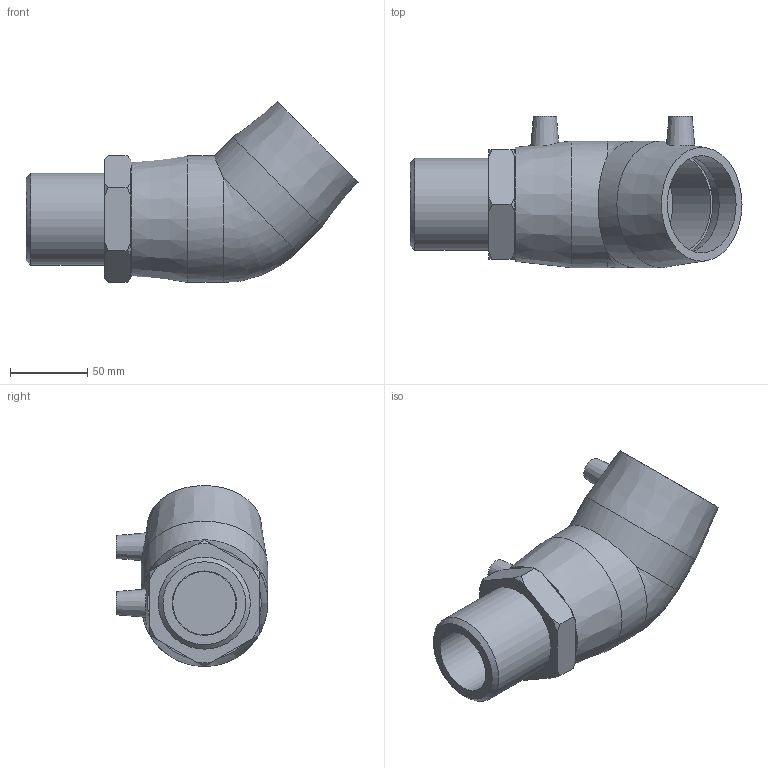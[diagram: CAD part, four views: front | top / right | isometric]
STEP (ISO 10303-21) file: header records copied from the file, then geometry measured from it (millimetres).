
FILE_DESCRIPTION(/* description */ ('PLASSON 45° ELBOW TRANSITION MALE 63 x 2"'),/* implementation_level */ '2;1');
FILE_NAME(/* name */ 'C:\Dropbox\KIMPROJECTS-Inventor\99-16-3568-Processing\ElectroFusion Fittings\02.02.20\492604\492604063020N.ipt.stp',/* time_stamp */ '2020-02-02T12:20:09+02:00',/* author */ ('KIM'),/* organization */ (''),/* preprocessor_version */ 'ST-DEVELOPER v15.6',/* originating_system */ 'Autodesk Inventor 2015',/* authorisation */ '');
FILE_SCHEMA (('AUTOMOTIVE_DESIGN { 1 0 10303 214 3 1 1 }'));
Length unit declared in the file: millimetre
Products named in the file (1): 492604063020N
Bounding box: 215 x 98 x 117.17 mm (x, y, z)
Volume: 542815.7 mm3; surface area: 96745.8 mm2
Topology: 1 solids, 2 shells, 61 faces, 137 edges, 90 vertices
Faces by surface type: plane 25, cone 19, cylinder 16, bspline 1
Full cylindrical faces by diameter (mm): 4 x2, 10 x2, 40.95 x2, 41.73 x1, 47 x1, 59.614 x1, 63 x4, 82 x2
Entity records: 1535 total; most frequent: CARTESIAN_POINT 369, DIRECTION 245, ORIENTED_EDGE 194, AXIS2_PLACEMENT_3D 113, EDGE_LOOP 99, EDGE_CURVE 97, VERTEX_POINT 76, FACE_OUTER_BOUND 61
